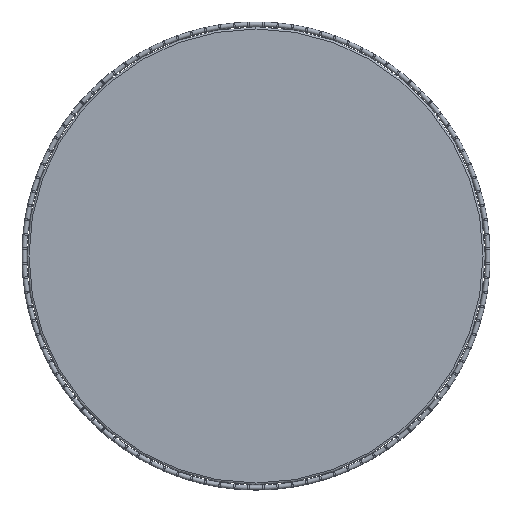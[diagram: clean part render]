
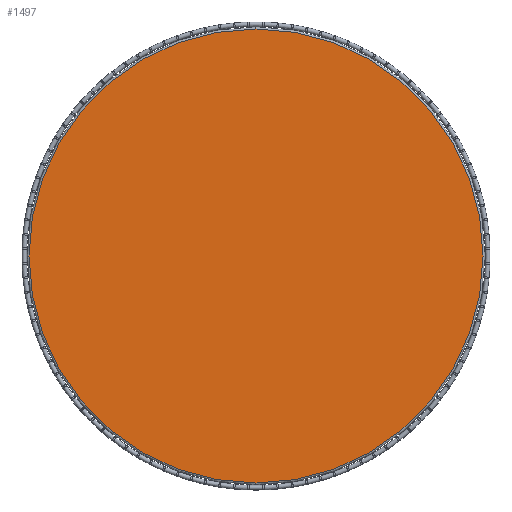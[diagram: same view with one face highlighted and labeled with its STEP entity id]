
A CAD part, front view. The second image highlights one B-rep face of the part: STEP entity #1497.
In plain terms, the highlighted planar face has unit normal (0, -1, 0).
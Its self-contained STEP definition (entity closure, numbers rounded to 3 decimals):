
#360 = CIRCLE ( 'NONE', #3283, 292. ) ;
#459 = CARTESIAN_POINT ( 'NONE',  ( 0., -2.4, -292. ) ) ;
#597 = CARTESIAN_POINT ( 'NONE',  ( 0., -2.4, 0. ) ) ;
#775 = ORIENTED_EDGE ( 'NONE', *, *, #879, .F. ) ;
#879 = EDGE_CURVE ( 'NONE', #3181, #4162, #360, .T. ) ;
#1497 = ADVANCED_FACE ( 'NONE', ( #1982 ), #2881, .T. ) ;
#1559 = EDGE_CURVE ( 'NONE', #4162, #3181, #2844, .T. ) ;
#1591 = CARTESIAN_POINT ( 'NONE',  ( 0., -2.4, 292. ) ) ;
#1982 = FACE_OUTER_BOUND ( 'NONE', #4115, .T. ) ;
#2018 = DIRECTION ( 'NONE',  ( 0., -1., 0. ) ) ;
#2115 = ORIENTED_EDGE ( 'NONE', *, *, #1559, .F. ) ;
#2285 = AXIS2_PLACEMENT_3D ( 'NONE', #3676, #2018, #3001 ) ;
#2340 = DIRECTION ( 'NONE',  ( 0., 0., 1. ) ) ;
#2844 = CIRCLE ( 'NONE', #3918, 292. ) ;
#2881 = PLANE ( 'NONE',  #2285 ) ;
#3001 = DIRECTION ( 'NONE',  ( 0., 0., -1. ) ) ;
#3181 = VERTEX_POINT ( 'NONE', #459 ) ;
#3207 = CARTESIAN_POINT ( 'NONE',  ( 0., -2.4, 0. ) ) ;
#3283 = AXIS2_PLACEMENT_3D ( 'NONE', #3207, #3896, #3939 ) ;
#3345 = DIRECTION ( 'NONE',  ( 0., 1., 0. ) ) ;
#3676 = CARTESIAN_POINT ( 'NONE',  ( 0., -2.4, 0. ) ) ;
#3896 = DIRECTION ( 'NONE',  ( 0., 1., 0. ) ) ;
#3918 = AXIS2_PLACEMENT_3D ( 'NONE', #597, #3345, #2340 ) ;
#3939 = DIRECTION ( 'NONE',  ( 0., 0., 1. ) ) ;
#4115 = EDGE_LOOP ( 'NONE', ( #2115, #775 ) ) ;
#4162 = VERTEX_POINT ( 'NONE', #1591 ) ;
